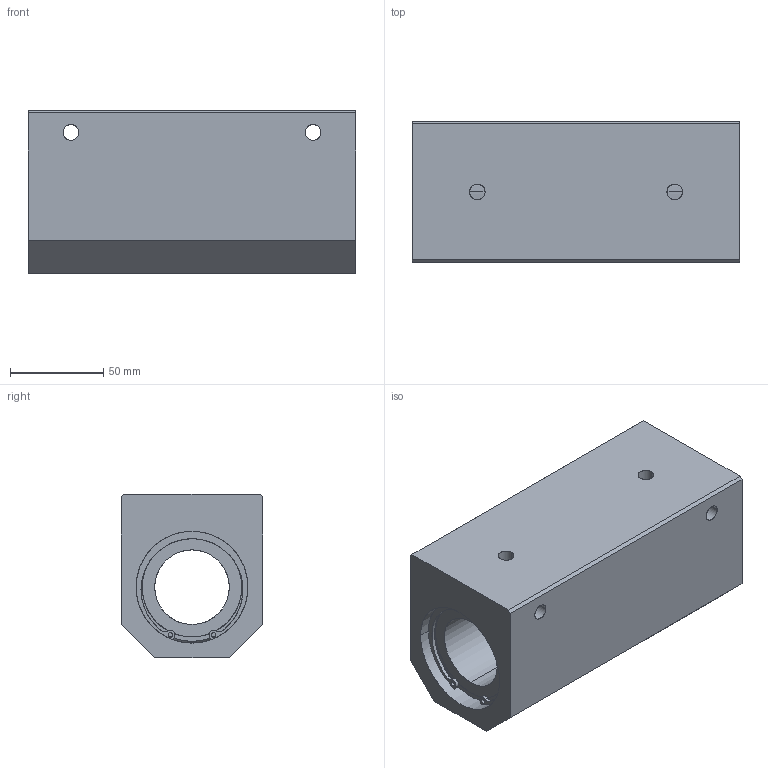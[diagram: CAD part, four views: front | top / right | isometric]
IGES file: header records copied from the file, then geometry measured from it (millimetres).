
Start section: SolidWorks IGES file using analytic representation for surfaces
Global section: file name: C:\Users\tsuch\OneDrive\デスクトップ\CHW40.IGS; native system: SolidWorks 2019; preprocessor: SolidWorks 2019; author: tsuch; date: 210624.112642; units: millimetre
Bounding box: 176 x 76 x 88 mm (x, y, z)
Surface area: 103275.1 mm2 (no closed solid volume)
Topology: 0 solids, 0 shells, 126 faces, 3580 edges, 3580 vertices
Faces by surface type: revolution 70, bspline 56
